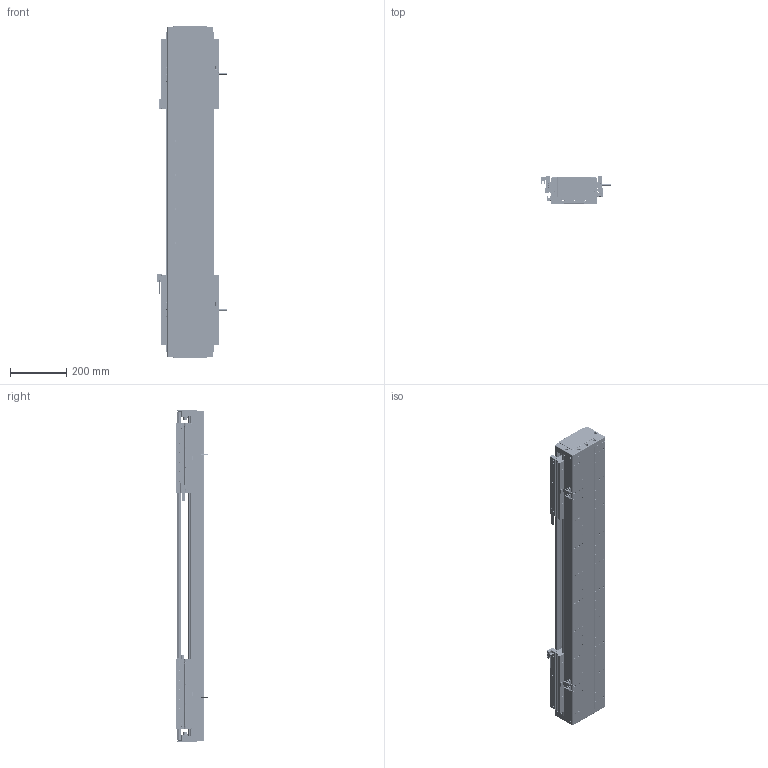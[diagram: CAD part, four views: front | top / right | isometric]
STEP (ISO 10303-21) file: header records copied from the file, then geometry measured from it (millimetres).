
FILE_DESCRIPTION (( 'STEP AP203' ), '1' );
FILE_NAME ('DA-C165-2-C3-T560-C010-0.2 直线电机.STEP', '2023-06-13T09:32:56', ( '微软用户' ), ( '微软中国' ), 'SwSTEP 2.0', 'SolidWorks 2019', '' );
FILE_SCHEMA (( 'CONFIG_CONTROL_DESIGN' ));
Length unit declared in the file: millimetre
Products named in the file (19): 葩璃 PM-Y45^DA-C165-C3-T-C010-0.2-N 眻盄萇儂; 复件 DKW-HXJ-JY-00 缓冲橡胶^DA-C165-C3-T-C010-0.2-N 直线电机; IU-CU165-L 菁釱絳寢; 复件 DA165-T-002-00 盖板^DA-C165-C3-T-C010-0.2-N 直线电机_0840-002-00; DA-C165-2-C3-T560-C010-0.2 眻盄萇儂; 复件 六角薄螺母 M3^DA-C165-C3-T-C010-0.2-N 直线电机_GB_FASTENER_NUT_STNAB M3-C; 珨极趙賑雄怢啣C3-wf; 葩璃 CKM03-W075-C1C2-TP-3.0^DA-C165-C3-T-C010-0.2-N 眻盄萇儂; 葩璃 DA95-GT-T-00^IU-CU165-L 菁釱絳寢_T; 复件 XD-U-02L 磁栅尺^DA-C165-C3-T-C010-0.2-N 直线电机_T; 复件 DA126-GYP-ZJ-00 中间光电感应片^DA-C165-C3-T-C010-0.2-N 直线电机; 复件 66338-1000-006-00 光电感应块^DA-C165-C3-T-C010-0.2-N 直线电机; 复件 DA95-HXJ-00 缓冲橡胶^DA-C165-C3-T-C010-0.2-N 直线电机; 葩璃 CKM01-W075-TRL^DA-C165-C3-T-C010-0.2-N 眻盄萇儂; 复件 DA165-GYP-00 光电感应片^DA-C165-C3-T-C010-0.2-N 直线电机; 复件 CU165 底座^IU-CU165-L 底座导轨_L1140; 复件 DA165-DG-H-N-00 端盖^DA-C165-C3-T-C010-0.2-N 直线电机; 葩璃 PM-T45^DA-C165-C3-T-C010-0.2-N 眻盄萇儂; 复件 DMA-010-0.2 读数头^DA-C165-C3-T-C010-0.2-N 直线电机
Assembly tree (40 placements, depth 3):
  DA-C165-2-C3-T560-C010-0.2 眻盄萇儂
    IU-CU165-L 菁釱絳寢
      复件 CU165 底座^IU-CU165-L 底座导轨_L1140
      葩璃 DA95-GT-T-00^IU-CU165-L 菁釱絳寢_T  x4
    复件 DA165-DG-H-N-00 端盖^DA-C165-C3-T-C010-0.2-N 直线电机  x2
    复件 DA95-HXJ-00 缓冲橡胶^DA-C165-C3-T-C010-0.2-N 直线电机  x4
    复件 DA165-T-002-00 盖板^DA-C165-C3-T-C010-0.2-N 直线电机_0840-002-00
    复件 XD-U-02L 磁栅尺^DA-C165-C3-T-C010-0.2-N 直线电机_T
    葩璃 PM-T45^DA-C165-C3-T-C010-0.2-N 眻盄萇儂  x4
    葩璃 CKM01-W075-TRL^DA-C165-C3-T-C010-0.2-N 眻盄萇儂
    复件 DMA-010-0.2 读数头^DA-C165-C3-T-C010-0.2-N 直线电机  x2
    复件 DA165-GYP-00 光电感应片^DA-C165-C3-T-C010-0.2-N 直线电机  x2
    复件 66338-1000-006-00 光电感应块^DA-C165-C3-T-C010-0.2-N 直线电机
    葩璃 PM-Y45^DA-C165-C3-T-C010-0.2-N 眻盄萇儂
    复件 DA126-GYP-ZJ-00 中间光电感应片^DA-C165-C3-T-C010-0.2-N 直线电机
    葩璃 CKM03-W075-C1C2-TP-3.0^DA-C165-C3-T-C010-0.2-N 眻盄萇儂  x2
    复件 DKW-HXJ-JY-00 缓冲橡胶^DA-C165-C3-T-C010-0.2-N 直线电机  x2
    复件 六角薄螺母 M3^DA-C165-C3-T-C010-0.2-N 直线电机_GB_FASTENER_NUT_STNAB M3-C  x8
    珨极趙賑雄怢啣C3-wf  x2
Bounding box: 247.2 x 111.45 x 1180 mm (x, y, z)
Volume: 11083410.6 mm3; surface area: 2787701.3 mm2
Topology: 117 solids, 217 shells, 5818 faces, 15169 edges, 9304 vertices
Faces by surface type: cylinder 2784, plane 1982, cone 956, torus 88, sphere 8
Entity records: 113056 total; most frequent: CARTESIAN_POINT 26746, DIRECTION 17765, ORIENTED_EDGE 17224, EDGE_CURVE 8612, AXIS2_PLACEMENT_3D 6683, VERTEX_POINT 5558, LINE 4399, VECTOR 4399
